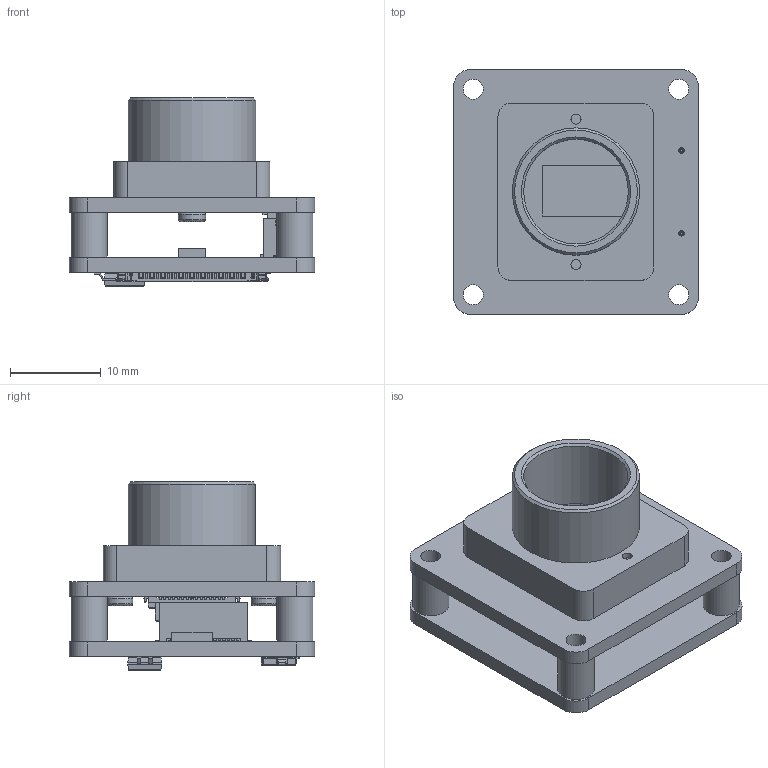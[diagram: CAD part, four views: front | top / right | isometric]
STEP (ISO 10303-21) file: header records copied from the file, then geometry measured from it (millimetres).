
FILE_DESCRIPTION(/* description */ ('STEP AP242 Edition 2','CAx-IF Rec.Pracs.---Representation and Presentation of Product Manufacturing Information (PMI)---4.0---2014-10-13','CAx-IF Rec.Pracs.---3D Tessellated Geometry---0.4---2014-09-14','2;1','CAx-IF Rec.Pracs.---User Defined Attributes---1.5---2016-08-15'),/* implementation_level */ '2;1');
FILE_NAME(/* name */ '6936e280ef49f703cc1fdc16',/* time_stamp */ '2025-12-08T14:36:52Z',/* author */ (''),/* organization */ (''),/* preprocessor_version */ 'ST-DEVELOPER v20',/* originating_system */ 'ONSHAPE BY PTC INC, 1.207',/* authorisation */ ' ');
FILE_SCHEMA (('AP242_MANAGED_MODEL_BASED_3D_ENGINEERING_MIM_LF { 1 0 10303 442 3 1 4 }'));
Products named in the file (68): ZED X ONE Core; Spacer barebone; Screw - Cheese Head Phillips - M1.4 x 0.3 x 5 - Steel - Natural - Zin
c Plate - Glued; Camera Component - Lens Holder; PCB ZED ONE Barebone <1>; 1085; 20525-x30E-02C RECE ASS''Y STEP R7 ALL; ASSEMBLY <1>; PinsArrayLR; Body; Camera Component - PCB Sensor - ZED X One GS <1>; 10132798-032100LF; ZEDX-ONE-AR0234 V1.0_TOP; 05PITCH-50H-30PIN_ASM <1>; TERMINAL; PAD1; PAD2; 05-50H-30PIN
Assembly tree (93 placements, depth 4):
  ZED X ONE Core
    Spacer barebone  x4
    Screw - Cheese Head Phillips - M1.4 x 0.3 x 5 - Steel - Natural - Zin
c Plate - Glued  x2
    Camera Component - Lens Holder
    PCB ZED ONE Barebone <1>
      1085
      1085
      1085
      1085
      1085
      1085
      1085
      1085
      1085
      ASSEMBLY <1>
        PinsArrayLR
        PinsArrayLR
        PinsArrayLR
        Body
        PinsArrayLR
      Camera Component - PCB Sensor - ZED X One GS <1>
        10132798-032100LF
        10132798-032100LF
        10132798-032100LF
        10132798-032100LF
        10132798-032100LF
        10132798-032100LF
        10132798-032100LF
        10132798-032100LF
        10132798-032100LF
        10132798-032100LF
        10132798-032100LF
        10132798-032100LF
        10132798-032100LF
        10132798-032100LF
        10132798-032100LF
        10132798-032100LF
        10132798-032100LF
        10132798-032100LF
        10132798-032100LF
        10132798-032100LF
        10132798-032100LF
        10132798-032100LF
        ZEDX-ONE-AR0234 V1.0_TOP
        10132798-032100LF
        10132798-032100LF
        10132798-032100LF
        10132798-032100LF
        10132798-032100LF
        10132798-032100LF
        10132798-032100LF
        10132798-032100LF
        10132798-032100LF
        10132798-032100LF
        10132798-032100LF
      1085
      05PITCH-50H-30PIN_ASM <1>
        TERMINAL  x15
        TERMINAL  x15
        PAD1
Bounding box: 27 x 27 x 20.7 mm (x, y, z)
Volume: 3846.5 mm3; surface area: 6981.1 mm2
Topology: 95 solids, 95 shells, 5192 faces, 15055 edges, 9941 vertices
Faces by surface type: plane 3587, cylinder 1578, cone 14, bspline 9, torus 4
Full cylindrical faces by diameter (mm): 0.5 x4, 0.562 x1, 0.6 x4, 1 x2, 1.05 x2, 1.1 x2, 1.4 x2, 1.42 x2, 1.5 x2, 2.2 x20, 3 x2, 4 x20, 11.5 x1, 14 x1
Entity records: 140528 total; most frequent: CARTESIAN_POINT 24767, ORIENTED_EDGE 24110, DIRECTION 22734, EDGE_CURVE 12055, LINE 9718, VECTOR 9718, VERTEX_POINT 7984, AXIS2_PLACEMENT_3D 6508
